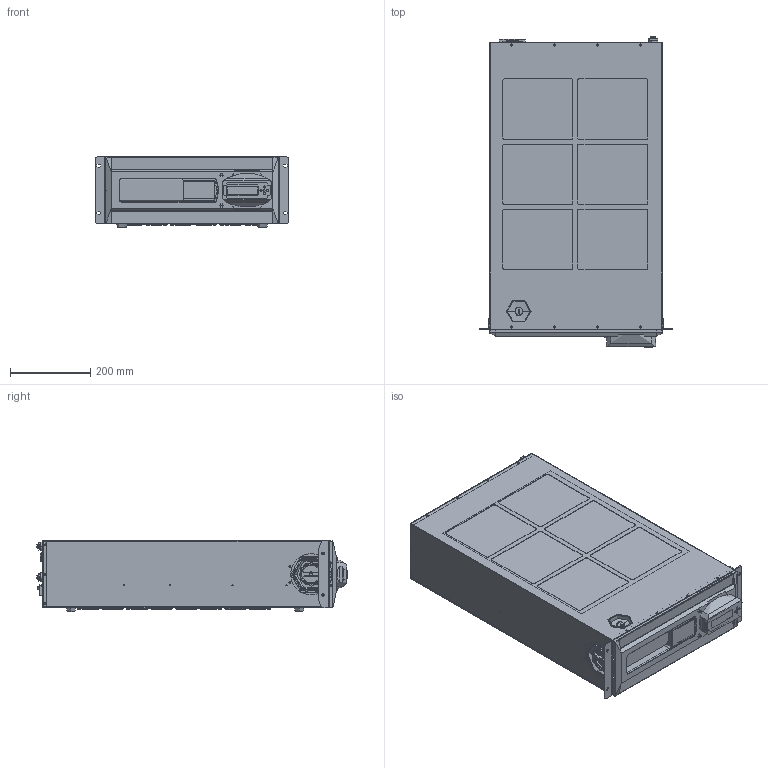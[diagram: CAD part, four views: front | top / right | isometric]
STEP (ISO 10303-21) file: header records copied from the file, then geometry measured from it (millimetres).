
FILE_DESCRIPTION(/* description */ (''),/* implementation_level */ '2;1');
FILE_NAME(/* name */ 'ALR_10K_ASSY01',/* time_stamp */ '2026-06-24T16:34:35+09:00',/* author */ (''),/* organization */ (''),/* preprocessor_version */ 'ST-DEVELOPER v19.2',/* originating_system */ 'Rhino 8.21',/* authorisation */ '');
FILE_SCHEMA (('AP242_MANAGED_MODEL_BASED_3D_ENGINEERING_MIM_LF { 1 0 10303 442 3 1 4 }'));
Products named in the file (5): Document; Bolt M3x5LF; Bolt M3x5LF 02; BKT-ALR4500-INT; PLG-EXT440CU 02
Bounding box: 482.9 x 773.31 x 177.4 mm (x, y, z)
Volume: 2391009.9 mm3; surface area: 2426286.2 mm2
Topology: 145 solids, 146 shells, 5034 faces, 12734 edges, 8131 vertices
Faces by surface type: bspline 5034
Entity records: 362502 total; most frequent: CARTESIAN_POINT 186488, B_SPLINE_CURVE_WITH_KNOTS 27963, ORIENTED_EDGE 22945, PCURVE 22945, DEFINITIONAL_REPRESENTATION 22945, DIRECTION 12279, SURFACE_CURVE 11475, EDGE_CURVE 11475
